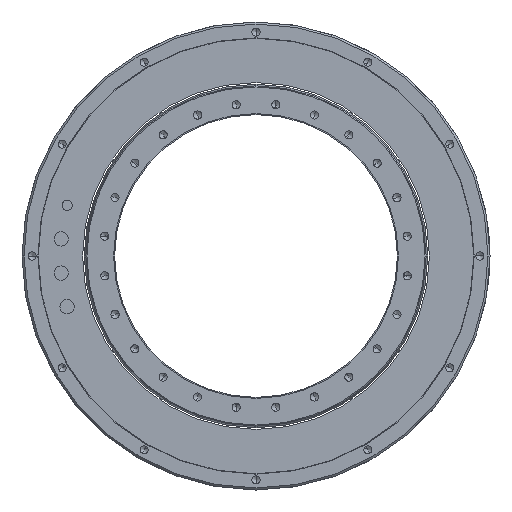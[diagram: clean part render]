
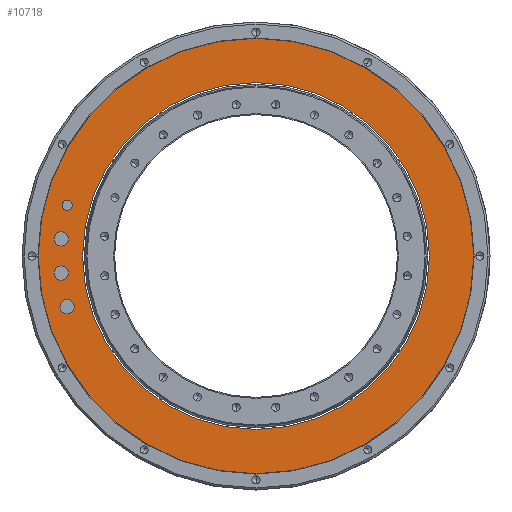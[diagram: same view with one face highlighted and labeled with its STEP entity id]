
A CAD part, left-side view. The second image highlights one B-rep face of the part: STEP entity #10718.
In plain terms, the highlighted planar face has unit normal (-1, 0, 0).
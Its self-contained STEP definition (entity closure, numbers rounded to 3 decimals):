
#10297=CARTESIAN_POINT('',(-112.,0.,0.));
#10298=DIRECTION('',(-1.,0.,0.));
#10299=DIRECTION('',(0.,1.,0.));
#10300=AXIS2_PLACEMENT_3D('',#10297,#10298,#10299);
#10302=CARTESIAN_POINT('',(-112.,0.,0.));
#10303=DIRECTION('',(1.,0.,0.));
#10304=DIRECTION('',(0.,1.,0.));
#10305=AXIS2_PLACEMENT_3D('',#10302,#10303,#10304);
#10307=CARTESIAN_POINT('',(-112.,0.,0.));
#10308=DIRECTION('',(-1.,0.,0.));
#10309=DIRECTION('',(0.,1.,0.));
#10310=AXIS2_PLACEMENT_3D('',#10307,#10308,#10309);
#10312=CARTESIAN_POINT('',(-112.,0.,0.));
#10313=DIRECTION('',(1.,0.,0.));
#10314=DIRECTION('',(0.,1.,0.));
#10315=AXIS2_PLACEMENT_3D('',#10312,#10313,#10314);
#10317=CARTESIAN_POINT('',(-112.,92.825,-24.873));
#10318=DIRECTION('',(-1.,0.,0.));
#10319=DIRECTION('',(0.,0.,1.));
#10320=AXIS2_PLACEMENT_3D('',#10317,#10318,#10319);
#10322=CARTESIAN_POINT('',(-112.,92.825,-24.873));
#10323=DIRECTION('',(-1.,0.,0.));
#10324=DIRECTION('',(0.,0.,-1.));
#10325=AXIS2_PLACEMENT_3D('',#10322,#10323,#10324);
#10327=CARTESIAN_POINT('',(-112.,92.825,24.873));
#10328=DIRECTION('',(-1.,0.,0.));
#10329=DIRECTION('',(0.,0.,1.));
#10330=AXIS2_PLACEMENT_3D('',#10327,#10328,#10329);
#10332=CARTESIAN_POINT('',(-112.,92.825,24.873));
#10333=DIRECTION('',(-1.,0.,0.));
#10334=DIRECTION('',(0.,0.,-1.));
#10335=AXIS2_PLACEMENT_3D('',#10332,#10333,#10334);
#10337=CARTESIAN_POINT('',(-112.,95.734,8.376));
#10338=DIRECTION('',(-1.,0.,0.));
#10339=DIRECTION('',(0.,0.,1.));
#10340=AXIS2_PLACEMENT_3D('',#10337,#10338,#10339);
#10342=CARTESIAN_POINT('',(-112.,95.734,8.376));
#10343=DIRECTION('',(-1.,0.,0.));
#10344=DIRECTION('',(0.,0.,-1.));
#10345=AXIS2_PLACEMENT_3D('',#10342,#10343,#10344);
#10347=CARTESIAN_POINT('',(-112.,95.734,-8.376));
#10348=DIRECTION('',(-1.,0.,0.));
#10349=DIRECTION('',(0.,0.,1.));
#10350=AXIS2_PLACEMENT_3D('',#10347,#10348,#10349);
#10352=CARTESIAN_POINT('',(-112.,95.734,-8.376));
#10353=DIRECTION('',(-1.,0.,0.));
#10354=DIRECTION('',(0.,0.,-1.));
#10355=AXIS2_PLACEMENT_3D('',#10352,#10353,#10354);
#10506=CARTESIAN_POINT('',(-112.,107.,0.));
#10508=VERTEX_POINT('',#10506);
#10509=CARTESIAN_POINT('',(-112.,85.2,0.));
#10511=VERTEX_POINT('',#10509);
#10526=CARTESIAN_POINT('',(-112.,-107.,0.));
#10528=VERTEX_POINT('',#10526);
#10529=CARTESIAN_POINT('',(-112.,-85.2,0.));
#10531=VERTEX_POINT('',#10529);
#10561=CARTESIAN_POINT('',(-112.,92.825,-21.373));
#10562=CARTESIAN_POINT('',(-112.,92.825,-28.373));
#10563=VERTEX_POINT('',#10561);
#10564=VERTEX_POINT('',#10562);
#10565=CARTESIAN_POINT('',(-112.,92.825,27.373));
#10566=CARTESIAN_POINT('',(-112.,92.825,22.373));
#10567=VERTEX_POINT('',#10565);
#10568=VERTEX_POINT('',#10566);
#10569=CARTESIAN_POINT('',(-112.,95.734,11.876));
#10570=CARTESIAN_POINT('',(-112.,95.734,4.876));
#10571=VERTEX_POINT('',#10569);
#10572=VERTEX_POINT('',#10570);
#10573=CARTESIAN_POINT('',(-112.,95.734,-4.876));
#10574=CARTESIAN_POINT('',(-112.,95.734,-11.876));
#10575=VERTEX_POINT('',#10573);
#10576=VERTEX_POINT('',#10574);
#10679=CARTESIAN_POINT('',(-112.,0.,0.));
#10680=DIRECTION('',(1.,0.,0.));
#10681=DIRECTION('',(0.,-1.,0.));
#10682=AXIS2_PLACEMENT_3D('',#10679,#10680,#10681);
#10683=PLANE('',#10682);
#10685=ORIENTED_EDGE('',*,*,#10684,.F.);
#10687=ORIENTED_EDGE('',*,*,#10686,.T.);
#10688=EDGE_LOOP('',(#10685,#10687));
#10689=FACE_OUTER_BOUND('',#10688,.F.);
#10690=ORIENTED_EDGE('',*,*,#10672,.F.);
#10691=ORIENTED_EDGE('',*,*,#10661,.T.);
#10692=EDGE_LOOP('',(#10690,#10691));
#10693=FACE_BOUND('',#10692,.F.);
#10695=ORIENTED_EDGE('',*,*,#10694,.T.);
#10697=ORIENTED_EDGE('',*,*,#10696,.T.);
#10698=EDGE_LOOP('',(#10695,#10697));
#10699=FACE_BOUND('',#10698,.F.);
#10701=ORIENTED_EDGE('',*,*,#10700,.T.);
#10703=ORIENTED_EDGE('',*,*,#10702,.T.);
#10704=EDGE_LOOP('',(#10701,#10703));
#10705=FACE_BOUND('',#10704,.F.);
#10707=ORIENTED_EDGE('',*,*,#10706,.T.);
#10709=ORIENTED_EDGE('',*,*,#10708,.T.);
#10710=EDGE_LOOP('',(#10707,#10709));
#10711=FACE_BOUND('',#10710,.F.);
#10713=ORIENTED_EDGE('',*,*,#10712,.T.);
#10715=ORIENTED_EDGE('',*,*,#10714,.T.);
#10716=EDGE_LOOP('',(#10713,#10715));
#10717=FACE_BOUND('',#10716,.F.);
#10718=ADVANCED_FACE('',(#10689,#10693,#10699,#10705,#10711,#10717),#10683,.F.);
#10301=CIRCLE('',#10300,85.2);
#10306=CIRCLE('',#10305,85.2);
#10311=CIRCLE('',#10310,107.);
#10316=CIRCLE('',#10315,107.);
#10321=CIRCLE('',#10320,3.5);
#10326=CIRCLE('',#10325,3.5);
#10331=CIRCLE('',#10330,2.5);
#10336=CIRCLE('',#10335,2.5);
#10341=CIRCLE('',#10340,3.5);
#10346=CIRCLE('',#10345,3.5);
#10351=CIRCLE('',#10350,3.5);
#10356=CIRCLE('',#10355,3.5);
#10661=EDGE_CURVE('',#10511,#10531,#10301,.T.);
#10672=EDGE_CURVE('',#10511,#10531,#10306,.T.);
#10684=EDGE_CURVE('',#10508,#10528,#10311,.T.);
#10686=EDGE_CURVE('',#10508,#10528,#10316,.T.);
#10694=EDGE_CURVE('',#10563,#10564,#10321,.T.);
#10696=EDGE_CURVE('',#10564,#10563,#10326,.T.);
#10700=EDGE_CURVE('',#10567,#10568,#10331,.T.);
#10702=EDGE_CURVE('',#10568,#10567,#10336,.T.);
#10706=EDGE_CURVE('',#10571,#10572,#10341,.T.);
#10708=EDGE_CURVE('',#10572,#10571,#10346,.T.);
#10712=EDGE_CURVE('',#10575,#10576,#10351,.T.);
#10714=EDGE_CURVE('',#10576,#10575,#10356,.T.);
